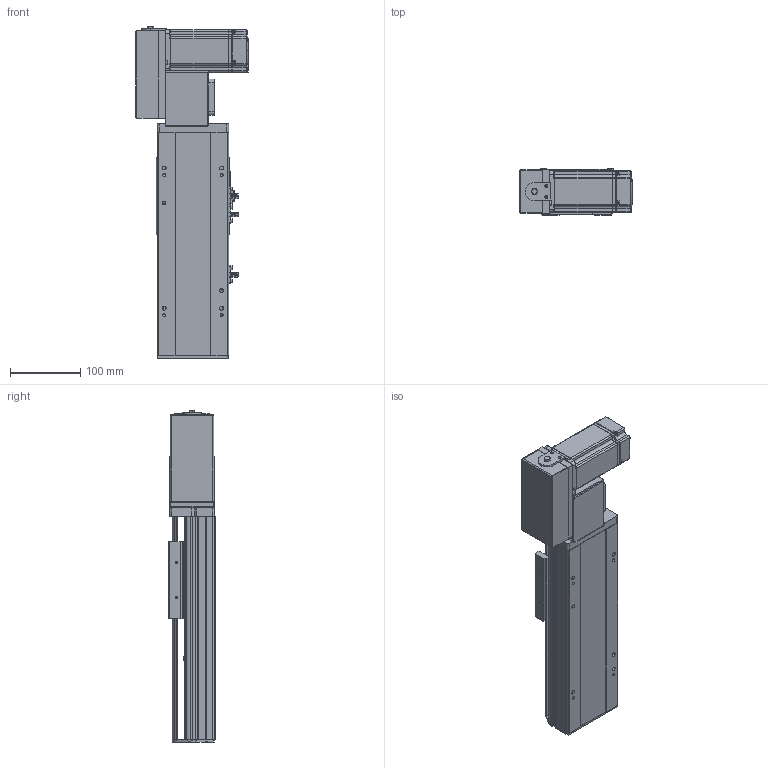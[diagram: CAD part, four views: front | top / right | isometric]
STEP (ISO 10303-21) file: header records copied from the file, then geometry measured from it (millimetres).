
FILE_DESCRIPTION (( 'STEP AP214' ), '1' );
FILE_NAME ('TPT10-L32-100-L-T10-C4.STEP', '2023-03-02T10:48:42', ( '' ), ( '' ), 'SwSTEP 2.0', 'SolidWorks 2020', '' );
FILE_SCHEMA (( 'AUTOMOTIVE_DESIGN' ));
Length unit declared in the file: millimetre
Products named in the file (12): hexagon head bolts-full thread gb_GB_FASTENER_BOLT_STBAB A M5X16-N; hexagon socket head cap screws gb_GB_FASTENER_SCREWS_HSHCS M3X6-N; 葩璃 pm-t65-672^TPT10-L32-L-T10-C4; 葩璃 TPT10-L-007 々湍釱MZ-169x88^TPT10-L32-L-T10-C4_L; 葩璃 TPT10-L-001 菁釱MZ-102A-01^TPT10-L32-L-T10-C4; 葩璃 TPT10-L-009 萇儂啣^TPT10-L32-L-T10-C4_100W; 葩璃 TPT10-L-005 賑釱MZ-102A-03^TPT10-L32-L-T10-C4; hex nuts, style 1-grades ab gb_GB_FASTENER_NUT_SNAB1 M3-N; 葩璃 侂狟100W^TPT10-L32-L-T10-C4; 葩璃 侂狟400W^TPT10-L32-L-T10-C4; TPT10-L32-100-L-T10-C4; 葩璃 TPT10-L-002 奻裔MZ-102A-02^TPT10-L32-L-T10-C4
Assembly tree (23 placements, depth 2):
  TPT10-L32-100-L-T10-C4
    葩璃 TPT10-L-001 菁釱MZ-102A-01^TPT10-L32-L-T10-C4
    葩璃 TPT10-L-002 奻裔MZ-102A-02^TPT10-L32-L-T10-C4
    葩璃 TPT10-L-007 々湍釱MZ-169x88^TPT10-L32-L-T10-C4_L
    葩璃 TPT10-L-005 賑釱MZ-102A-03^TPT10-L32-L-T10-C4
    葩璃 TPT10-L-009 萇儂啣^TPT10-L32-L-T10-C4_100W
    葩璃 pm-t65-672^TPT10-L32-L-T10-C4  x3
    葩璃 侂狟100W^TPT10-L32-L-T10-C4
    葩璃 侂狟400W^TPT10-L32-L-T10-C4
    hexagon head bolts-full thread gb_GB_FASTENER_BOLT_STBAB A M5X16-N
    hexagon socket head cap screws gb_GB_FASTENER_SCREWS_HSHCS M3X6-N  x6
    hex nuts, style 1-grades ab gb_GB_FASTENER_NUT_SNAB1 M3-N  x6
Bounding box: 160.5 x 66 x 473.65 mm (x, y, z)
Volume: 1903663.5 mm3; surface area: 419762 mm2
Topology: 31 solids, 31 shells, 1829 faces, 4771 edges, 3057 vertices
Faces by surface type: plane 1026, cylinder 575, cone 182, bspline 34, torus 12
Entity records: 45381 total; most frequent: CARTESIAN_POINT 8848, DIRECTION 7442, ORIENTED_EDGE 7190, EDGE_CURVE 3595, AXIS2_PLACEMENT_3D 2596, VERTEX_POINT 2348, VECTOR 2250, LINE 2250
